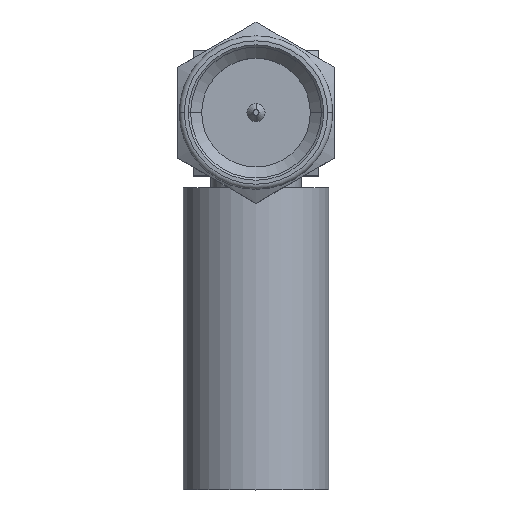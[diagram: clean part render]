
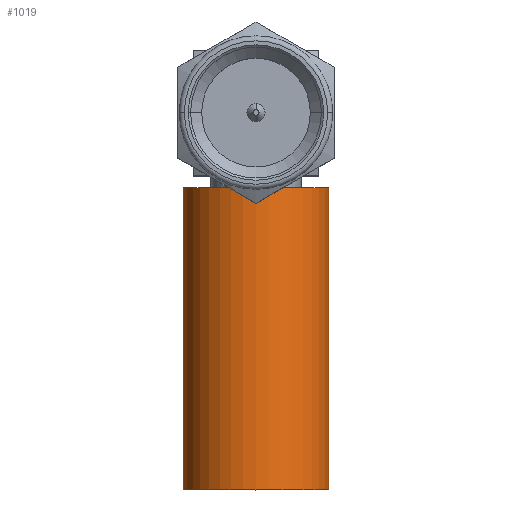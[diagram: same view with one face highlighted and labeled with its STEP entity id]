
A CAD part, top view. The second image highlights one B-rep face of the part: STEP entity #1019.
In plain terms, the highlighted cylindrical face has radius 3.683 mm (diameter 7.366 mm), a partial arc.
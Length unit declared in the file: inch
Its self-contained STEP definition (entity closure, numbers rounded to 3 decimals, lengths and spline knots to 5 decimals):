
#10 = EDGE_CURVE ( 'NONE', #621, #2623, #1824, .T. ) ;
#472 = EDGE_CURVE ( 'NONE', #3735, #3597, #2639, .T. ) ;
#609 = AXIS2_PLACEMENT_3D ( 'NONE', #1831, #2579, #4481 ) ;
#621 = VERTEX_POINT ( 'NONE', #3963 ) ;
#751 = DIRECTION ( 'NONE',  ( 0., 1., 0. ) ) ;
#899 = FACE_OUTER_BOUND ( 'NONE', #3491, .T. ) ;
#1019 = ADVANCED_FACE ( 'NONE', ( #899 ), #3533, .T. ) ;
#1036 = DIRECTION ( 'NONE',  ( -1., 0., 0. ) ) ;
#1056 = ORIENTED_EDGE ( 'NONE', *, *, #3573, .T. ) ;
#1159 = CARTESIAN_POINT ( 'NONE',  ( -0.145, -0.749, -0.425 ) ) ;
#1331 = AXIS2_PLACEMENT_3D ( 'NONE', #1970, #4203, #4635 ) ;
#1596 = AXIS2_PLACEMENT_3D ( 'NONE', #1713, #2782, #1036 ) ;
#1698 = CARTESIAN_POINT ( 'NONE',  ( 0.145, -0.749, -0.425 ) ) ;
#1713 = CARTESIAN_POINT ( 'NONE',  ( 0., -0.749, -0.425 ) ) ;
#1824 = LINE ( 'NONE', #1159, #4440 ) ;
#1831 = CARTESIAN_POINT ( 'NONE',  ( 0., -0.749, -0.425 ) ) ;
#1970 = CARTESIAN_POINT ( 'NONE',  ( 0., -0.149, -0.425 ) ) ;
#2435 = ORIENTED_EDGE ( 'NONE', *, *, #2792, .F. ) ;
#2579 = DIRECTION ( 'NONE',  ( 0., -1., 0. ) ) ;
#2623 = VERTEX_POINT ( 'NONE', #4661 ) ;
#2639 = LINE ( 'NONE', #1698, #3638 ) ;
#2782 = DIRECTION ( 'NONE',  ( 0., 1., 0. ) ) ;
#2783 = CARTESIAN_POINT ( 'NONE',  ( 0.145, -0.749, -0.425 ) ) ;
#2792 = EDGE_CURVE ( 'NONE', #3735, #621, #2956, .T. ) ;
#2802 = DIRECTION ( 'NONE',  ( 0., 1., 0. ) ) ;
#2821 = CIRCLE ( 'NONE', #1331, 0.145 ) ;
#2956 = CIRCLE ( 'NONE', #609, 0.145 ) ;
#3491 = EDGE_LOOP ( 'NONE', ( #2435, #3856, #1056, #3830 ) ) ;
#3533 = CYLINDRICAL_SURFACE ( 'NONE', #1596, 0.145 ) ;
#3573 = EDGE_CURVE ( 'NONE', #3597, #2623, #2821, .T. ) ;
#3597 = VERTEX_POINT ( 'NONE', #4222 ) ;
#3638 = VECTOR ( 'NONE', #2802, 39.37008 ) ;
#3735 = VERTEX_POINT ( 'NONE', #2783 ) ;
#3830 = ORIENTED_EDGE ( 'NONE', *, *, #10, .F. ) ;
#3856 = ORIENTED_EDGE ( 'NONE', *, *, #472, .T. ) ;
#3963 = CARTESIAN_POINT ( 'NONE',  ( -0.145, -0.749, -0.425 ) ) ;
#4203 = DIRECTION ( 'NONE',  ( 0., -1., 0. ) ) ;
#4222 = CARTESIAN_POINT ( 'NONE',  ( 0.145, -0.149, -0.425 ) ) ;
#4440 = VECTOR ( 'NONE', #751, 39.37008 ) ;
#4481 = DIRECTION ( 'NONE',  ( 1., 0., 0. ) ) ;
#4635 = DIRECTION ( 'NONE',  ( 1., 0., 0. ) ) ;
#4661 = CARTESIAN_POINT ( 'NONE',  ( -0.145, -0.149, -0.425 ) ) ;
